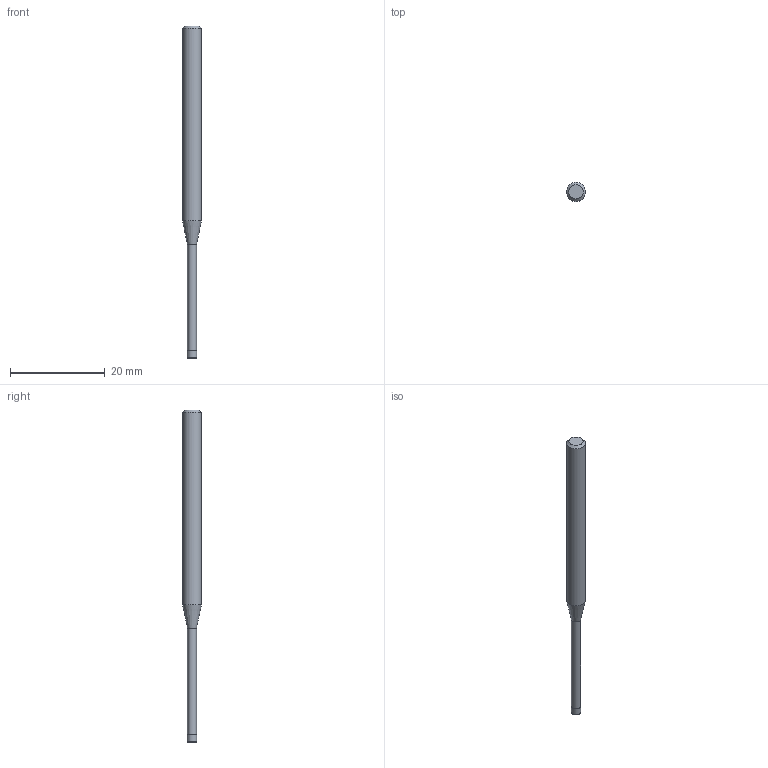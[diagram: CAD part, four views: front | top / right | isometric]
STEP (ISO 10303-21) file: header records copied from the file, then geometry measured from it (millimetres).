
FILE_DESCRIPTION((''),'2;1');
FILE_NAME('C:\Users\nsx150\AppData\Local\Temp\Mastercam 2021\17T8Q8S9EB\TEMP.step','2021-04-21T14:36:55',(''),(''),'STEP Write','Mastercam 2021 ... CNC Software, Inc.','');
FILE_SCHEMA(('AUTOMOTIVE_DESIGN'));
Length unit declared in the file: millimetre
Products named in the file (1): None
Bounding box: 4 x 4 x 70 mm (x, y, z)
Volume: 619.1 mm3; surface area: 724.8 mm2
Topology: 2 solids, 2 shells, 10 faces, 14 edges, 8 vertices
Faces by surface type: plane 4, cylinder 3, cone 2, torus 1
Full cylindrical faces by diameter (mm): 1.91 x1, 2 x1, 4 x1
Entity records: 232 total; most frequent: DIRECTION 40, CARTESIAN_POINT 28, AXIS2_PLACEMENT_3D 20, ORIENTED_EDGE 16, EDGE_LOOP 16, STYLED_ITEM 13, ADVANCED_FACE 10, FACE_BOUND 10
